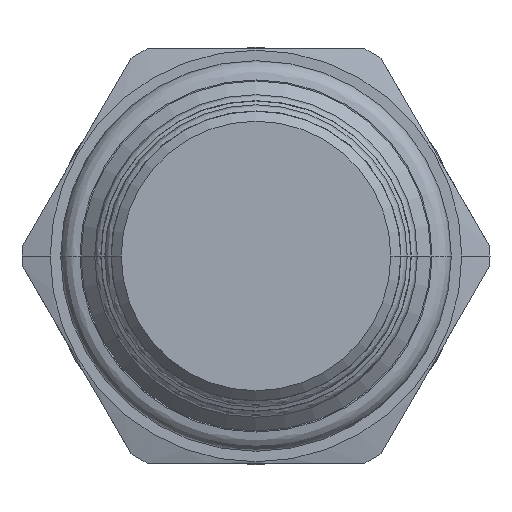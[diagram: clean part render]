
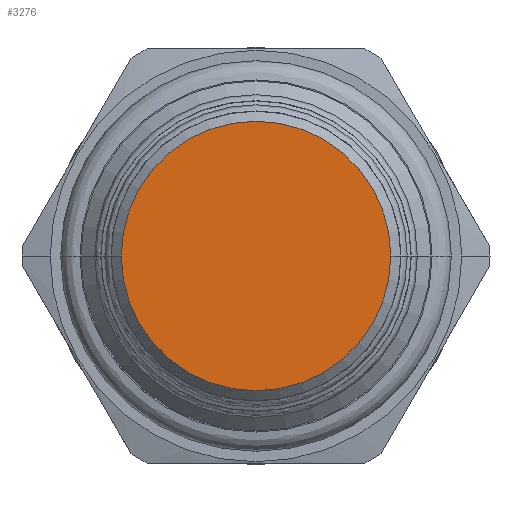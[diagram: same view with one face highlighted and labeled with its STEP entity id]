
A CAD part, front view. The second image highlights one B-rep face of the part: STEP entity #3276.
In plain terms, the highlighted planar face has unit normal (0, -1, 0).
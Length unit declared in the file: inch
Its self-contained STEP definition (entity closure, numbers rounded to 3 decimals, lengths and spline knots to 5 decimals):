
#1221=CARTESIAN_POINT('',(0.,-2.78,0.));
#1222=DIRECTION('',(0.,1.,0.));
#1223=DIRECTION('',(-1.,0.,0.));
#1224=AXIS2_PLACEMENT_3D('',#1221,#1222,#1223);
#1239=CARTESIAN_POINT('',(0.,-2.78,0.));
#1240=DIRECTION('',(0.,-1.,0.));
#1241=DIRECTION('',(-1.,0.,0.));
#1242=AXIS2_PLACEMENT_3D('',#1239,#1240,#1241);
#1351=CARTESIAN_POINT('',(-0.406,-2.78,0.));
#1352=CARTESIAN_POINT('',(0.406,-2.78,0.));
#1353=VERTEX_POINT('',#1351);
#1354=VERTEX_POINT('',#1352);
#3266=CARTESIAN_POINT('',(0.,-2.78,0.));
#3267=DIRECTION('',(0.,1.,0.));
#3268=DIRECTION('',(1.,0.,0.));
#3269=AXIS2_PLACEMENT_3D('',#3266,#3267,#3268);
#3270=PLANE('',#3269);
#3272=ORIENTED_EDGE('',*,*,#3271,.F.);
#3273=ORIENTED_EDGE('',*,*,#3256,.T.);
#3274=EDGE_LOOP('',(#3272,#3273));
#3275=FACE_OUTER_BOUND('',#3274,.F.);
#3276=ADVANCED_FACE('',(#3275),#3270,.F.);
#1225=CIRCLE('',#1224,0.406);
#1243=CIRCLE('',#1242,0.406);
#3256=EDGE_CURVE('',#1353,#1354,#1225,.T.);
#3271=EDGE_CURVE('',#1353,#1354,#1243,.T.);
